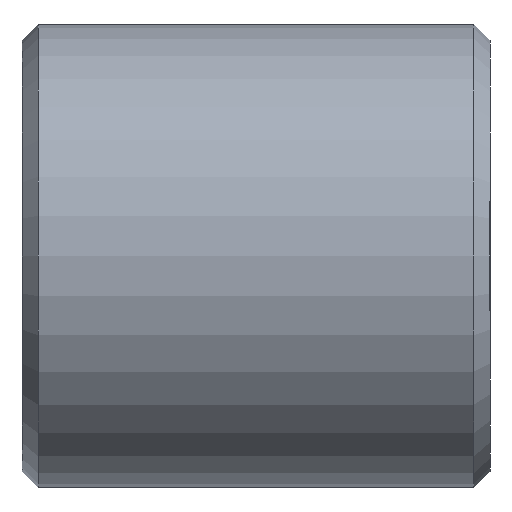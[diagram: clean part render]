
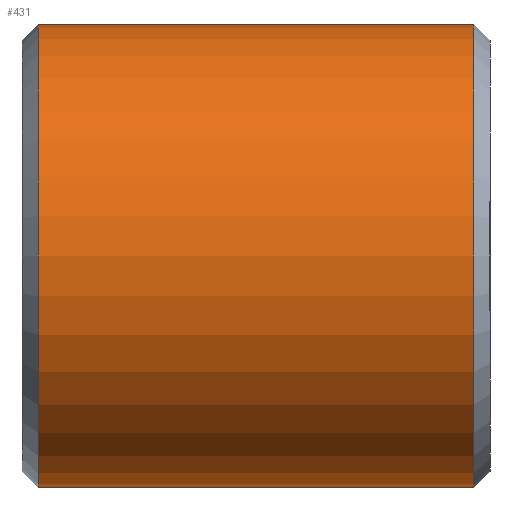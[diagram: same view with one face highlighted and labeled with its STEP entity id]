
A CAD part, left-side view. The second image highlights one B-rep face of the part: STEP entity #431.
In plain terms, the highlighted cylindrical face has radius 5.486 mm (diameter 10.973 mm), a full revolution.
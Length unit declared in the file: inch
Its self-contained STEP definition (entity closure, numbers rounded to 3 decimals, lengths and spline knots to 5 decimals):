
#19=FACE_BOUND('',#86,.T.);
#22=CYLINDRICAL_SURFACE('',#486,0.216);
#32=CIRCLE('',#484,0.216);
#33=CIRCLE('',#485,0.216);
#34=CIRCLE('',#487,0.216);
#35=CIRCLE('',#488,0.216);
#57=FACE_OUTER_BOUND('',#85,.T.);
#85=EDGE_LOOP('',(#337,#338,#339,#340,#341,#342));
#86=EDGE_LOOP('',(#343,#344,#345,#346,#347,#348));
#103=LINE('',#648,#143);
#112=LINE('',#671,#152);
#118=LINE('',#706,#158);
#143=VECTOR('',#515,0.3937);
#152=VECTOR('',#538,0.3937);
#158=VECTOR('',#580,0.216);
#180=ELLIPSE('',#460,0.24942,0.216);
#181=ELLIPSE('',#463,0.24942,0.216);
#182=ELLIPSE('',#465,0.24942,0.216);
#183=ELLIPSE('',#467,0.24942,0.216);
#184=VERTEX_POINT('',#638);
#185=VERTEX_POINT('',#639);
#188=VERTEX_POINT('',#647);
#190=VERTEX_POINT('',#653);
#192=VERTEX_POINT('',#659);
#194=VERTEX_POINT('',#665);
#204=VERTEX_POINT('',#699);
#205=VERTEX_POINT('',#701);
#206=VERTEX_POINT('',#705);
#207=VERTEX_POINT('',#707);
#223=EDGE_CURVE('',#184,#185,#180,.T.);
#227=EDGE_CURVE('',#185,#188,#103,.T.);
#230=EDGE_CURVE('',#188,#190,#181,.T.);
#233=EDGE_CURVE('',#190,#192,#182,.T.);
#236=EDGE_CURVE('',#194,#184,#183,.T.);
#239=EDGE_CURVE('',#192,#194,#112,.T.);
#253=EDGE_CURVE('',#204,#205,#32,.T.);
#254=EDGE_CURVE('',#205,#204,#33,.T.);
#255=EDGE_CURVE('',#205,#206,#118,.T.);
#256=EDGE_CURVE('',#207,#206,#34,.T.);
#257=EDGE_CURVE('',#206,#207,#35,.T.);
#337=ORIENTED_EDGE('',*,*,#253,.F.);
#338=ORIENTED_EDGE('',*,*,#254,.F.);
#339=ORIENTED_EDGE('',*,*,#255,.T.);
#340=ORIENTED_EDGE('',*,*,#256,.F.);
#341=ORIENTED_EDGE('',*,*,#257,.F.);
#342=ORIENTED_EDGE('',*,*,#255,.F.);
#343=ORIENTED_EDGE('',*,*,#233,.T.);
#344=ORIENTED_EDGE('',*,*,#239,.T.);
#345=ORIENTED_EDGE('',*,*,#236,.T.);
#346=ORIENTED_EDGE('',*,*,#223,.T.);
#347=ORIENTED_EDGE('',*,*,#227,.T.);
#348=ORIENTED_EDGE('',*,*,#230,.T.);
#431=ADVANCED_FACE('',(#57,#19),#22,.T.);
#460=AXIS2_PLACEMENT_3D('',#640,#508,#509);
#463=AXIS2_PLACEMENT_3D('',#654,#520,#521);
#465=AXIS2_PLACEMENT_3D('',#660,#526,#527);
#467=AXIS2_PLACEMENT_3D('',#666,#532,#533);
#484=AXIS2_PLACEMENT_3D('',#702,#574,#575);
#485=AXIS2_PLACEMENT_3D('',#703,#576,#577);
#486=AXIS2_PLACEMENT_3D('',#704,#578,#579);
#487=AXIS2_PLACEMENT_3D('',#708,#581,#582);
#488=AXIS2_PLACEMENT_3D('',#709,#583,#584);
#508=DIRECTION('center_axis',(0.,-0.866,0.5));
#509=DIRECTION('ref_axis',(0.,-0.5,-0.866));
#515=DIRECTION('',(0.,1.,0.));
#520=DIRECTION('center_axis',(0.,0.866,0.5));
#521=DIRECTION('ref_axis',(0.,0.5,-0.866));
#526=DIRECTION('center_axis',(0.,0.866,-0.5));
#527=DIRECTION('ref_axis',(0.,-0.5,-0.866));
#532=DIRECTION('center_axis',(0.,-0.866,-0.5));
#533=DIRECTION('ref_axis',(0.,0.5,-0.866));
#538=DIRECTION('',(0.,-1.,0.));
#574=DIRECTION('center_axis',(0.,-1.,0.));
#575=DIRECTION('ref_axis',(0.,0.,1.));
#576=DIRECTION('center_axis',(0.,-1.,0.));
#577=DIRECTION('ref_axis',(0.,0.,1.));
#578=DIRECTION('center_axis',(0.,-1.,0.));
#579=DIRECTION('ref_axis',(0.,0.,-1.));
#580=DIRECTION('',(0.,1.,0.));
#581=DIRECTION('center_axis',(0.,1.,0.));
#582=DIRECTION('ref_axis',(0.,0.,1.));
#583=DIRECTION('center_axis',(0.,1.,0.));
#584=DIRECTION('ref_axis',(0.,0.,1.));
#638=CARTESIAN_POINT('',(0.216,0.17231,0.));
#639=CARTESIAN_POINT('',(0.21226,0.19541,0.04));
#640=CARTESIAN_POINT('Origin',(0.,0.17231,0.));
#647=CARTESIAN_POINT('',(0.21226,0.24159,0.04));
#648=CARTESIAN_POINT('',(0.21226,0.2185,0.04));
#653=CARTESIAN_POINT('',(0.216,0.26469,0.));
#654=CARTESIAN_POINT('Origin',(0.,0.26469,0.));
#659=CARTESIAN_POINT('',(0.21226,0.24159,-0.04));
#660=CARTESIAN_POINT('Origin',(0.,0.26469,0.));
#665=CARTESIAN_POINT('',(0.21226,0.19541,-0.04));
#666=CARTESIAN_POINT('Origin',(0.,0.17231,0.));
#671=CARTESIAN_POINT('',(0.21226,0.2185,-0.04));
#699=CARTESIAN_POINT('',(0.,0.015,-0.216));
#701=CARTESIAN_POINT('',(0.,0.015,0.216));
#702=CARTESIAN_POINT('Origin',(0.,0.015,0.));
#703=CARTESIAN_POINT('Origin',(0.,0.015,0.));
#704=CARTESIAN_POINT('Origin',(0.,0.2185,0.));
#705=CARTESIAN_POINT('',(0.,0.422,0.216));
#706=CARTESIAN_POINT('',(0.,0.2185,0.216));
#707=CARTESIAN_POINT('',(0.,0.422,-0.216));
#708=CARTESIAN_POINT('Origin',(0.,0.422,0.));
#709=CARTESIAN_POINT('Origin',(0.,0.422,0.));
